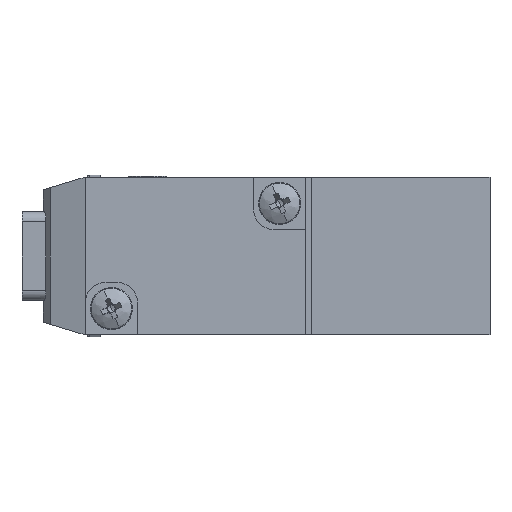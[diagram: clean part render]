
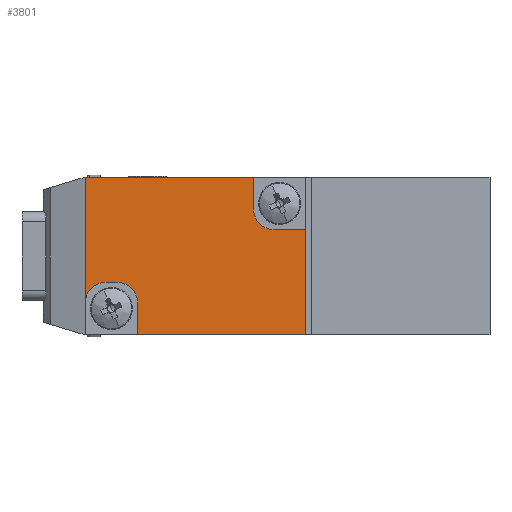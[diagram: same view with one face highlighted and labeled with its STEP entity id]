
A CAD part, left-side view. The second image highlights one B-rep face of the part: STEP entity #3801.
In plain terms, the highlighted planar face has unit normal (-1, 0, 0) as drawn and (1, 0, 0) by its records, which use the part's own axes.
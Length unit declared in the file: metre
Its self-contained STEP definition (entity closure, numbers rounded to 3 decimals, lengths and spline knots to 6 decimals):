
#108 = LINE ( 'NONE', #3281, #2260 ) ;
#123 = ORIENTED_EDGE ( 'NONE', *, *, #6958, .T. ) ;
#150 = EDGE_CURVE ( 'NONE', #575, #3246, #5080, .T. ) ;
#186 = CARTESIAN_POINT ( 'NONE',  ( 0.01825, 0.0035, 0.0045 ) ) ;
#311 = VECTOR ( 'NONE', #1521, 1. ) ;
#321 = CARTESIAN_POINT ( 'NONE',  ( 0.01825, 0.0085, 0.0045 ) ) ;
#409 = CARTESIAN_POINT ( 'NONE',  ( 0.01825, -0.0095, -0.0045 ) ) ;
#426 = DIRECTION ( 'NONE',  ( 1., 0., 0. ) ) ;
#512 = DIRECTION ( 'NONE',  ( 0., 0., 1. ) ) ;
#575 = VERTEX_POINT ( 'NONE', #7327 ) ;
#617 = VECTOR ( 'NONE', #2496, 1. ) ;
#623 = ORIENTED_EDGE ( 'NONE', *, *, #3924, .F. ) ;
#731 = ORIENTED_EDGE ( 'NONE', *, *, #2706, .F. ) ;
#794 = VERTEX_POINT ( 'NONE', #3023 ) ;
#841 = AXIS2_PLACEMENT_3D ( 'NONE', #409, #426, #512 ) ;
#860 = LINE ( 'NONE', #2481, #617 ) ;
#1073 = VERTEX_POINT ( 'NONE', #8489 ) ;
#1148 = ORIENTED_EDGE ( 'NONE', *, *, #2208, .F. ) ;
#1228 = LINE ( 'NONE', #2232, #5071 ) ;
#1463 = CARTESIAN_POINT ( 'NONE',  ( 0.01825, 0.0065, 0.0045 ) ) ;
#1472 = DIRECTION ( 'NONE',  ( 0., 0., 1. ) ) ;
#1521 = DIRECTION ( 'NONE',  ( 0., -1., 0. ) ) ;
#1717 = VERTEX_POINT ( 'NONE', #186 ) ;
#1719 = CARTESIAN_POINT ( 'NONE',  ( 0.01825, 0.0035, 0.0075 ) ) ;
#1750 = DIRECTION ( 'NONE',  ( 1., 0., 0. ) ) ;
#1836 = DIRECTION ( 'NONE',  ( 0., -1., 0. ) ) ;
#1907 = EDGE_CURVE ( 'NONE', #3166, #575, #8299, .T. ) ;
#2115 = CARTESIAN_POINT ( 'NONE',  ( 0.01825, -0.002, 0.0075 ) ) ;
#2117 = CARTESIAN_POINT ( 'NONE',  ( 0.01825, -0.0125, -0.0025 ) ) ;
#2208 = EDGE_CURVE ( 'NONE', #4987, #4118, #2328, .T. ) ;
#2232 = CARTESIAN_POINT ( 'NONE',  ( 0.01825, -0.0075, -0.006 ) ) ;
#2260 = VECTOR ( 'NONE', #3205, 1. ) ;
#2328 = LINE ( 'NONE', #5661, #6075 ) ;
#2481 = CARTESIAN_POINT ( 'NONE',  ( 0.01825, -0.011, -0.0025 ) ) ;
#2496 = DIRECTION ( 'NONE',  ( 0., 1., 0. ) ) ;
#2706 = EDGE_CURVE ( 'NONE', #5257, #4987, #4581, .T. ) ;
#2866 = VECTOR ( 'NONE', #8171, 1. ) ;
#3023 = CARTESIAN_POINT ( 'NONE',  ( 0.01825, -0.0075, -0.0075 ) ) ;
#3166 = VERTEX_POINT ( 'NONE', #1719 ) ;
#3205 = DIRECTION ( 'NONE',  ( 0., 1., 0. ) ) ;
#3246 = VERTEX_POINT ( 'NONE', #2117 ) ;
#3281 = CARTESIAN_POINT ( 'NONE',  ( 0.01825, -0.002, 0.0025 ) ) ;
#3458 = LINE ( 'NONE', #4139, #7453 ) ;
#3620 = DIRECTION ( 'NONE',  ( 1., 0., 0. ) ) ;
#3703 = AXIS2_PLACEMENT_3D ( 'NONE', #8407, #8571, #8632 ) ;
#3731 = LINE ( 'NONE', #8785, #9326 ) ;
#3779 = AXIS2_PLACEMENT_3D ( 'NONE', #8152, #3620, #8941 ) ;
#3801 = ADVANCED_FACE ( 'NONE', ( #8373 ), #8534, .F. ) ;
#3924 = EDGE_CURVE ( 'NONE', #4365, #1073, #5574, .T. ) ;
#4118 = VERTEX_POINT ( 'NONE', #7387 ) ;
#4139 = CARTESIAN_POINT ( 'NONE',  ( 0.01825, -0.002, -0.0075 ) ) ;
#4365 = VERTEX_POINT ( 'NONE', #8700 ) ;
#4443 = AXIS2_PLACEMENT_3D ( 'NONE', #1463, #1750, #1472 ) ;
#4581 = CIRCLE ( 'NONE', #4443, 0.002 ) ;
#4639 = ORIENTED_EDGE ( 'NONE', *, *, #8412, .T. ) ;
#4730 = ORIENTED_EDGE ( 'NONE', *, *, #8921, .F. ) ;
#4987 = VERTEX_POINT ( 'NONE', #321 ) ;
#5071 = VECTOR ( 'NONE', #7525, 1. ) ;
#5074 = EDGE_CURVE ( 'NONE', #1717, #6190, #6613, .T. ) ;
#5080 = LINE ( 'NONE', #8207, #2866 ) ;
#5257 = VERTEX_POINT ( 'NONE', #8347 ) ;
#5261 = DIRECTION ( 'NONE',  ( 0., 0., -1. ) ) ;
#5574 = CIRCLE ( 'NONE', #841, 0.002 ) ;
#5661 = CARTESIAN_POINT ( 'NONE',  ( 0.01825, 0.0085, 0. ) ) ;
#5671 = ORIENTED_EDGE ( 'NONE', *, *, #150, .T. ) ;
#5897 = ORIENTED_EDGE ( 'NONE', *, *, #6338, .F. ) ;
#6075 = VECTOR ( 'NONE', #5261, 1. ) ;
#6190 = VERTEX_POINT ( 'NONE', #6812 ) ;
#6338 = EDGE_CURVE ( 'NONE', #3166, #1717, #3731, .T. ) ;
#6613 = CIRCLE ( 'NONE', #3779, 0.002 ) ;
#6812 = CARTESIAN_POINT ( 'NONE',  ( 0.01825, 0.0055, 0.0025 ) ) ;
#6958 = EDGE_CURVE ( 'NONE', #3246, #1073, #860, .T. ) ;
#6979 = ORIENTED_EDGE ( 'NONE', *, *, #5074, .F. ) ;
#7046 = EDGE_CURVE ( 'NONE', #6190, #5257, #108, .T. ) ;
#7327 = CARTESIAN_POINT ( 'NONE',  ( 0.01825, -0.0125, 0.0075 ) ) ;
#7348 = ORIENTED_EDGE ( 'NONE', *, *, #7046, .F. ) ;
#7387 = CARTESIAN_POINT ( 'NONE',  ( 0.01825, 0.0085, -0.0075 ) ) ;
#7453 = VECTOR ( 'NONE', #1836, 1. ) ;
#7525 = DIRECTION ( 'NONE',  ( 0., 0., -1. ) ) ;
#8115 = EDGE_LOOP ( 'NONE', ( #123, #623, #4639, #4730, #1148, #731, #7348, #6979, #5897, #9920, #5671 ) ) ;
#8152 = CARTESIAN_POINT ( 'NONE',  ( 0.01825, 0.0055, 0.0045 ) ) ;
#8171 = DIRECTION ( 'NONE',  ( 0., 0., -1. ) ) ;
#8207 = CARTESIAN_POINT ( 'NONE',  ( 0.01825, -0.0125, 0. ) ) ;
#8299 = LINE ( 'NONE', #2115, #311 ) ;
#8347 = CARTESIAN_POINT ( 'NONE',  ( 0.01825, 0.0065, 0.0025 ) ) ;
#8373 = FACE_OUTER_BOUND ( 'NONE', #8115, .T. ) ;
#8407 = CARTESIAN_POINT ( 'NONE',  ( 0.01825, -0.0125, -0.0075 ) ) ;
#8412 = EDGE_CURVE ( 'NONE', #4365, #794, #1228, .T. ) ;
#8489 = CARTESIAN_POINT ( 'NONE',  ( 0.01825, -0.0095, -0.0025 ) ) ;
#8534 = PLANE ( 'NONE',  #3703 ) ;
#8571 = DIRECTION ( 'NONE',  ( -1., 0., 0. ) ) ;
#8632 = DIRECTION ( 'NONE',  ( 0., 0., 1. ) ) ;
#8700 = CARTESIAN_POINT ( 'NONE',  ( 0.01825, -0.0075, -0.0045 ) ) ;
#8751 = DIRECTION ( 'NONE',  ( 0., 0., -1. ) ) ;
#8785 = CARTESIAN_POINT ( 'NONE',  ( 0.01825, 0.0035, 0. ) ) ;
#8921 = EDGE_CURVE ( 'NONE', #4118, #794, #3458, .T. ) ;
#8941 = DIRECTION ( 'NONE',  ( 0., 0., 1. ) ) ;
#9326 = VECTOR ( 'NONE', #8751, 1. ) ;
#9920 = ORIENTED_EDGE ( 'NONE', *, *, #1907, .T. ) ;
